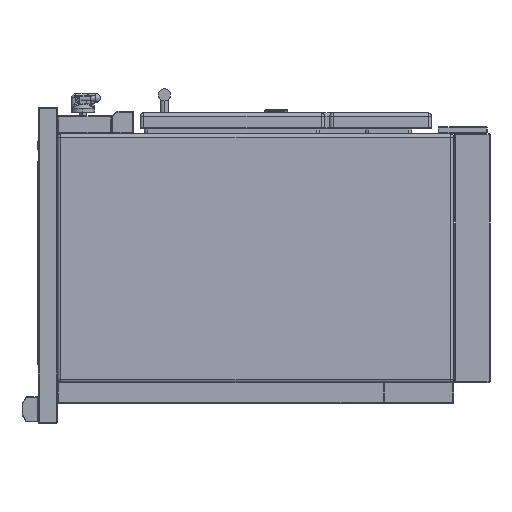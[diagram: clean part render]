
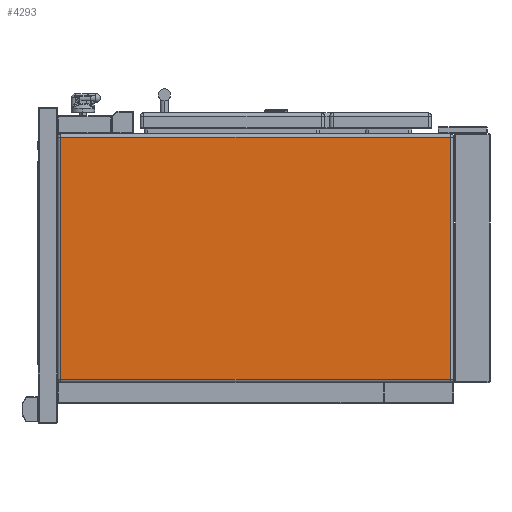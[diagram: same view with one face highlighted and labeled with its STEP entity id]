
A CAD part, left-side view. The second image highlights one B-rep face of the part: STEP entity #4293.
In plain terms, the highlighted planar face has unit normal (-1, 0, 0).
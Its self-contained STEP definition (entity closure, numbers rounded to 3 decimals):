
#470=DIRECTION('',(0.,1.,0.));
#471=VECTOR('',#470,801.);
#472=CARTESIAN_POINT('',(-700.,82.,249.));
#473=LINE('',#472,#471);
#474=DIRECTION('',(0.,0.,1.));
#475=VECTOR('',#474,498.);
#476=CARTESIAN_POINT('',(-700.,82.,-249.));
#477=LINE('',#476,#475);
#478=DIRECTION('',(0.,-1.,0.));
#479=VECTOR('',#478,801.);
#480=CARTESIAN_POINT('',(-700.,883.,-249.));
#481=LINE('',#480,#479);
#482=DIRECTION('',(0.,0.,-1.));
#483=VECTOR('',#482,498.);
#484=CARTESIAN_POINT('',(-700.,883.,249.));
#485=LINE('',#484,#483);
#3036=CARTESIAN_POINT('',(-700.,82.,249.));
#3037=CARTESIAN_POINT('',(-700.,883.,249.));
#3038=VERTEX_POINT('',#3036);
#3039=VERTEX_POINT('',#3037);
#3040=CARTESIAN_POINT('',(-700.,82.,-249.));
#3041=VERTEX_POINT('',#3040);
#3058=CARTESIAN_POINT('',(-700.,883.,-249.));
#3059=VERTEX_POINT('',#3058);
#4280=CARTESIAN_POINT('',(-700.,0.,0.));
#4281=DIRECTION('',(1.,0.,0.));
#4282=DIRECTION('',(0.,0.,-1.));
#4283=AXIS2_PLACEMENT_3D('',#4280,#4281,#4282);
#4284=PLANE('',#4283);
#4285=ORIENTED_EDGE('',*,*,#4246,.F.);
#4286=ORIENTED_EDGE('',*,*,#4270,.F.);
#4288=ORIENTED_EDGE('',*,*,#4287,.F.);
#4290=ORIENTED_EDGE('',*,*,#4289,.F.);
#4291=EDGE_LOOP('',(#4285,#4286,#4288,#4290));
#4292=FACE_OUTER_BOUND('',#4291,.F.);
#4246=EDGE_CURVE('',#3038,#3039,#473,.T.);
#4270=EDGE_CURVE('',#3041,#3038,#477,.T.);
#4287=EDGE_CURVE('',#3059,#3041,#481,.T.);
#4289=EDGE_CURVE('',#3039,#3059,#485,.T.);
#4293=ADVANCED_FACE('',(#4292),#4284,.F.);
